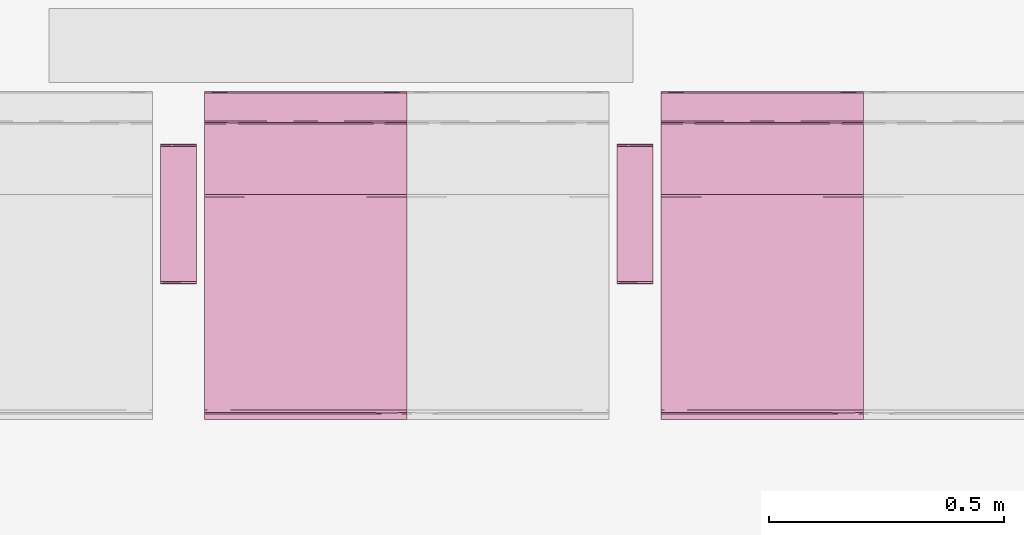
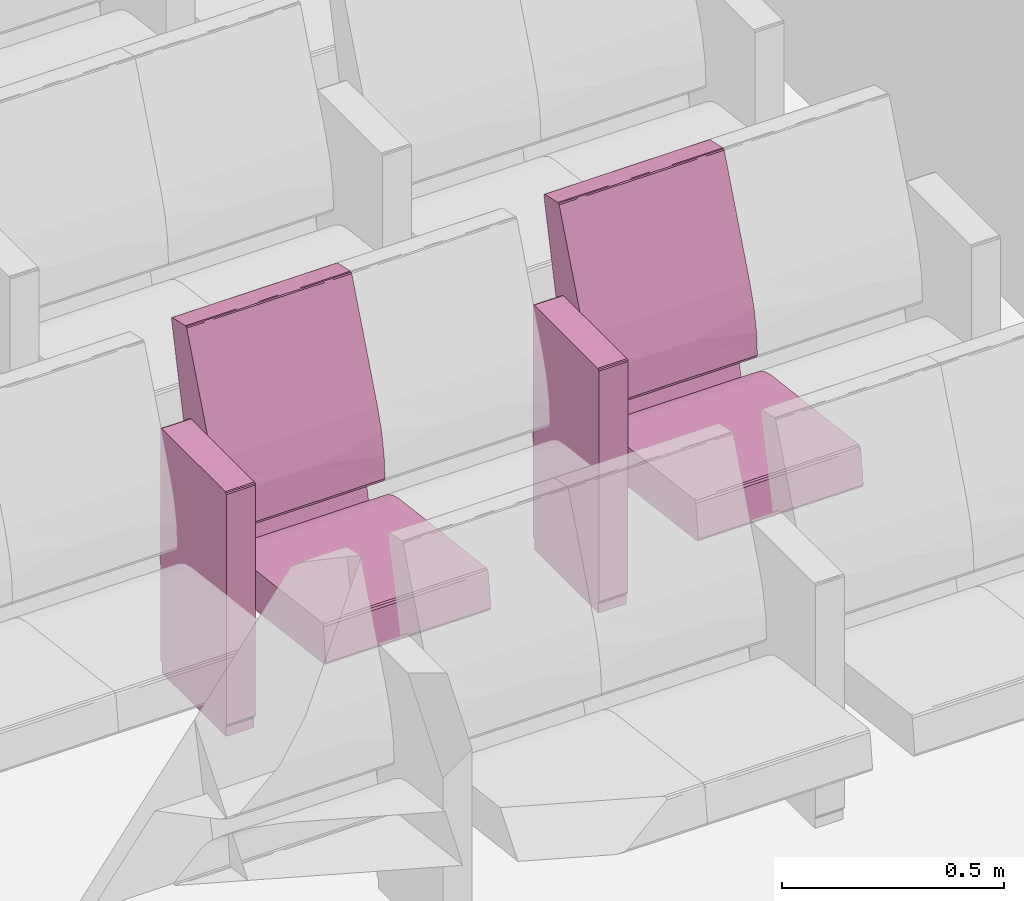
# One storey, part 130 of 155: 2 furnishings.
"""IFC2X3 building model written with IfcOpenShell, lengths in metres."""

from ifc_helpers import new_model, entity, si_unit, converted_unit, derived_unit, direction, frame, origin, place, context, subcontext, project, spatial, faceted_brep, source, transform, mapped, material, material_list, type_object, type_shapes, element, save


model = new_model("IFC2X3")

# Units and contexts
model_context = context("Model", 3, precision=1e-05, world=origin(), true_north=direction((6.12303176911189e-17, 1.0)))
body_context = subcontext(model_context, "Body", "Model", "MODEL_VIEW")
ifc_project = project(units=[si_unit("LENGTHUNIT", "METRE"), si_unit("AREAUNIT", "SQUARE_METRE"), si_unit("VOLUMEUNIT", "CUBIC_METRE"), converted_unit("PLANEANGLEUNIT", "DEGREE", entity("IfcRatioMeasure", 0.0174532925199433), si_unit("PLANEANGLEUNIT", "RADIAN"), dimensions=[0, 0, 0, 0, 0, 0, 0]), si_unit("MASSUNIT", "GRAM", prefix="KILO"), derived_unit("MASSDENSITYUNIT", [(si_unit("MASSUNIT", "GRAM", prefix="KILO"), 1), (si_unit("LENGTHUNIT", "METRE"), -3)]), si_unit("TIMEUNIT", "SECOND"), si_unit("FREQUENCYUNIT", "HERTZ"), si_unit("THERMODYNAMICTEMPERATUREUNIT", "DEGREE_CELSIUS"), derived_unit("THERMALTRANSMITTANCEUNIT", [(si_unit("MASSUNIT", "GRAM", prefix="KILO"), 1), (si_unit("THERMODYNAMICTEMPERATUREUNIT", "KELVIN"), -1), (si_unit("TIMEUNIT", "SECOND"), -3)]), derived_unit("VOLUMETRICFLOWRATEUNIT", [(si_unit("LENGTHUNIT", "METRE"), 3), (si_unit("TIMEUNIT", "SECOND"), -1)]), si_unit("ELECTRICCURRENTUNIT", "AMPERE"), si_unit("ELECTRICVOLTAGEUNIT", "VOLT"), si_unit("POWERUNIT", "WATT"), si_unit("FORCEUNIT", "NEWTON", prefix="KILO"), si_unit("ILLUMINANCEUNIT", "LUX"), si_unit("LUMINOUSFLUXUNIT", "LUMEN"), si_unit("LUMINOUSINTENSITYUNIT", "CANDELA"), derived_unit("USERDEFINED", [(si_unit("MASSUNIT", "GRAM", prefix="KILO"), -1), (si_unit("LENGTHUNIT", "METRE"), -2), (si_unit("TIMEUNIT", "SECOND"), 3), (si_unit("LUMINOUSFLUXUNIT", "LUMEN"), 1)]), derived_unit("LINEARVELOCITYUNIT", [(si_unit("LENGTHUNIT", "METRE"), 1), (si_unit("TIMEUNIT", "SECOND"), -1)]), si_unit("PRESSUREUNIT", "PASCAL"), derived_unit("USERDEFINED", [(si_unit("LENGTHUNIT", "METRE"), -2), (si_unit("MASSUNIT", "GRAM", prefix="KILO"), 1), (si_unit("TIMEUNIT", "SECOND"), -2)])], contexts=[model_context])

# Site, building, storey, space
site_placement = place(None, frame((26.9889013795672, -17.5624287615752, 0.0)))
site = spatial("IfcSite", under=ifc_project, at=site_placement, Name="Default", CompositionType="ELEMENT")
building_placement = place(site_placement, origin())
building = spatial("IfcBuilding", under=site, at=building_placement, Name="C. C. L. Monsenhor Antônio Sampaio", CompositionType="ELEMENT")
storey_placement = place(building_placement, frame((0.0, 0.0, 1.19999999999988)))
storey = spatial("IfcBuildingStorey", under=building, at=storey_placement, Name="Nível 1.2", CompositionType="ELEMENT", Elevation=1.19999999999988)
space_placement = place(storey_placement, origin())
space = spatial("IfcSpace", under=storey, at=space_placement, Name="94", CompositionType="ELEMENT", InteriorOrExteriorSpace="INTERNAL")

# Furnishings
ifc_material_1 = material(Name="V9 - V9 - Ecopelle_672_658")
ifc_material_2 = material(Name="V9 - V9 - RAL_9006_Grigio")
ifc_material_list_1 = material_list([ifc_material_1, ifc_material_2])
ifc_material_list_2 = material_list([ifc_material_1, ifc_material_2])
furniture_type = type_object("IfcFurnitureType", Name="Cadeira auditório", material=ifc_material_list_2)
shared_shape = source(origin(), body_context, "Body", "Brep", [
    faceted_brep([(0.405536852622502, 0.156348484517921, 0.339809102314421), (0.410560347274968, 0.131924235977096, 0.34246450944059), (0.405536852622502, 0.1075, 0.339809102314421), (0.405536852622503, 0.0537499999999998, 0.339809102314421), (0.410597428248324, 0.084060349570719, 0.342506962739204), (0.41079981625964, 0.0179166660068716, 0.342749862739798), (0.405536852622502, 0.215, 0.339809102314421), (0.410248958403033, 0.173608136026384, 0.342130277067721), (0.412515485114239, 0.185674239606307, 0.348529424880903), (0.412515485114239, 0.143333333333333, 0.348529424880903), (0.410560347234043, -0.131924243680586, 0.342464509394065), (0.405536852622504, -0.156348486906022, 0.33980910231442), (0.405536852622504, -0.1075, 0.33980910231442), (0.405536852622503, 0.0, 0.33980910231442), (0.41251548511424, 0.0, 0.348529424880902), (0.411170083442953, -0.0341365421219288, 0.343251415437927), (0.41059742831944, -0.0840603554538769, 0.342506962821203), (0.41251548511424, -0.143333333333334, 0.348529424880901), (0.412515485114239, 0.0358333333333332, 0.348529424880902), (0.412515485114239, 0.0716666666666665, 0.348529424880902), (0.405536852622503, -0.0537500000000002, 0.33980910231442), (0.412515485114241, -0.185674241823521, 0.348529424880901), (0.410799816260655, -0.215, 0.342749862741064), (0.410248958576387, -0.173608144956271, 0.342130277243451), (0.410799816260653, 0.215, 0.342749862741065), (0.412515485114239, 0.215, 0.348529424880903), (0.412515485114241, -0.215, 0.348529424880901), (0.41251548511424, -0.0716666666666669, 0.348529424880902), (0.405536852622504, -0.215, 0.33980910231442), (-0.0557900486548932, -0.215, 0.28268145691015), (-0.055790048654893, -0.168631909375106, 0.282681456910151), (-0.0557900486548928, -0.138065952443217, 0.282681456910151), (-0.0557900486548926, -0.107499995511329, 0.282681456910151), (-0.0557900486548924, -0.0806249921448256, 0.282681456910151), (-0.0557900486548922, -0.0537499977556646, 0.282681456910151), (-0.0557900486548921, -0.0268750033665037, 0.282681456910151), (-0.0557900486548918, 0.0, 0.28268145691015), (-0.0557900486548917, 0.0268749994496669, 0.282681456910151), (-0.0557900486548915, 0.0537499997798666, 0.282681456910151), (-0.0557900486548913, 0.0806250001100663, 0.282681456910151), (-0.0557900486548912, 0.107499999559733, 0.282681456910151), (-0.055790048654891, 0.134374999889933, 0.282681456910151), (-0.0557900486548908, 0.161250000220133, 0.282681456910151), (-0.0557900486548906, 0.1881249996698, 0.282681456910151), (-0.0557900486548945, 0.215, 0.28268145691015), (-0.0594787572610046, -0.0152829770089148, 0.283700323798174), (-0.0613666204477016, 0.0, 0.287029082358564), (-0.0594787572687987, 0.0179017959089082, 0.283700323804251), (-0.0613666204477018, 0.191815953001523, 0.287029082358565), (-0.0613666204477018, 0.215, 0.287029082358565), (-0.0594787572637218, 0.215, 0.283700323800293), (-0.0593340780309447, 0.0671874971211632, 0.283591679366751), (-0.0613666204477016, 0.030565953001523, 0.287029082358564), (-0.0594787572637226, -0.215, 0.283700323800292), (-0.0593337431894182, -0.184174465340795, 0.283591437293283), (-0.0613666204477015, -0.122263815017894, 0.287029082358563), (-0.0613666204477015, -0.0916978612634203, 0.287029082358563), (-0.0613666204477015, -0.0611319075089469, 0.287029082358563), (-0.0593023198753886, -0.0940625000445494, 0.283568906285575), (-0.059382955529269, 0.118123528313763, 0.28362747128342), (-0.0613666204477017, 0.122263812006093, 0.287029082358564), (-0.0597338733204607, 0.147039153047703, 0.283913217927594), (-0.0613666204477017, 0.168631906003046, 0.287029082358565), (-0.0592501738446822, 0.180223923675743, 0.283532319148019), (-0.0588783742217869, 0.0926899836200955, 0.283298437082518), (-0.0613666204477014, -0.215, 0.287029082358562), (-0.0613666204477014, -0.168631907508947, 0.287029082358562), (-0.0592576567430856, -0.123736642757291, 0.283537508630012), (-0.0594787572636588, -0.153348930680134, 0.283700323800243), (-0.0613666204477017, 0.0916978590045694, 0.287029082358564), (-0.0613666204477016, -0.0305659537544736, 0.287029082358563), (-0.059645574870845, -0.045848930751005, 0.283836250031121), (-0.0613666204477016, 0.0611319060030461, 0.287029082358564), (-0.069340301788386, -0.215, 0.351419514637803), (-0.0693403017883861, -0.143333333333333, 0.351419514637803), (-0.0693403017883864, -0.0716666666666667, 0.351419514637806), (-0.0693403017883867, 0.0, 0.351419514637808), (-0.069340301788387, 0.0716666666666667, 0.351419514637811), (-0.0693403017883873, 0.143333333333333, 0.351419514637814), (-0.0693403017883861, 0.215, 0.351419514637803), (-0.0597085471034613, 0.0, 0.37476954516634), (-0.0645543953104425, 0.112272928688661, 0.369803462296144), (-0.0653387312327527, 0.0126787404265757, 0.368680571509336), (-0.0681665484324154, -0.0888707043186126, 0.36292533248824), (-0.0655136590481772, -0.10440004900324, 0.368411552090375), (-0.0694879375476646, 0.0590582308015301, 0.356377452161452), (-0.0695056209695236, -0.125492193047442, 0.356093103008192), (-0.0597085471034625, -0.110316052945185, 0.374769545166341), (-0.0690003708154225, 0.132942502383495, 0.359900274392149), (-0.0672851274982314, 0.108066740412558, 0.365148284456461), (-0.0676206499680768, 0.215, 0.364371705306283), (-0.0686241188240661, 0.215, 0.356813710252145), (-0.0686241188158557, -0.214999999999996, 0.356813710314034), (-0.0686999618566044, 0.0358333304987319, 0.36116674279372), (-0.0694502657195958, -0.0358333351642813, 0.356863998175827), (-0.0676206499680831, -0.214999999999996, 0.364371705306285), (-0.0636645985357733, -0.214999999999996, 0.369570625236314), (-0.0597085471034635, -0.214999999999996, 0.374769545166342), (-0.0597085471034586, 0.215, 0.374769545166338), (-0.0636645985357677, 0.215, 0.36957062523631), (-0.0597085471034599, 0.110316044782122, 0.374769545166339), (-0.0324117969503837, 0.215, 0.390639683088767), (-0.0324117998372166, 0.0436847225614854, 0.39063968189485), (-0.0018793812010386, 0.215, 0.398686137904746), (-0.041847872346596, -0.0856576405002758, 0.386239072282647), (-0.0324117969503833, -0.215, 0.390639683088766), (-0.00187938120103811, -0.215, 0.398686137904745), (-0.00187938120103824, -0.102488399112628, 0.398686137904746), (-0.0219042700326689, -0.0570631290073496, 0.394412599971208), (-0.00187938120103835, 0.0, 0.398686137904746), (0.392202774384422, 0.215, 0.447486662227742), (0.392202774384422, -0.215, 0.447486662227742), (0.392202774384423, -0.156349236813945, 0.447486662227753), (0.392202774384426, -0.107499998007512, 0.447486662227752), (0.392202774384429, -0.0537500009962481, 0.44748666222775), (0.392202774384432, 0.0, 0.447486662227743), (0.392202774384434, 0.0537499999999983, 0.447486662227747), (0.392202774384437, 0.107499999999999, 0.447486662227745), (0.392202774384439, 0.156349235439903, 0.447486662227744), (0.398104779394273, -0.131924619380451, 0.445856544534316), (0.401125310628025, -0.0976984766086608, 0.440530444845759), (0.397860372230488, -0.0827732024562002, 0.446039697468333), (0.401125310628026, -0.215000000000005, 0.440530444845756), (0.401125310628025, -0.156349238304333, 0.440530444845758), (0.397373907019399, -0.173462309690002, 0.446363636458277), (0.398104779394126, -0.215000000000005, 0.445856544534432), (0.397860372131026, 0.0827731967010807, 0.446039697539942), (0.398104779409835, 0.131924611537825, 0.445856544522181), (0.398104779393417, -0.0237489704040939, 0.445856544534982), (0.398104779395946, 0.0268749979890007, 0.445856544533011), (0.401125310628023, 0.0488492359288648, 0.440530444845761), (0.401125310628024, -0.0488492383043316, 0.440530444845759), (0.398774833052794, 0.173462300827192, 0.445271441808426), (0.401125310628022, 0.097698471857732, 0.440530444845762), (0.401125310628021, 0.215, 0.440530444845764), (0.39810477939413, 0.215, 0.445856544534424), (0.401125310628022, 0.156349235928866, 0.440530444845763), (0.401125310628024, 0.0, 0.44053044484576)], [[[0, 1, 2]], [[3, 4, 5]], [[6, 7, 0]], [[7, 8, 9]], [[10, 11, 12]], [[3, 5, 13]], [[14, 15, 5]], [[16, 17, 10]], [[9, 1, 7]], [[18, 5, 4]], [[4, 9, 19, 18]], [[9, 4, 1]], [[2, 1, 4]], [[13, 15, 20]], [[21, 22, 23]], [[5, 18, 14]], [[24, 25, 8]], [[22, 21, 26]], [[24, 7, 6]], [[23, 11, 10]], [[20, 15, 16]], [[3, 2, 4]], [[14, 27, 15]], [[5, 15, 13]], [[27, 17, 16]], [[10, 12, 16]], [[21, 23, 17]], [[20, 16, 12]], [[15, 27, 16]], [[7, 1, 0]], [[28, 11, 23]], [[8, 7, 24]], [[23, 10, 17]], [[28, 23, 22]], [[28, 29, 30, 31, 32, 33, 34, 35, 36, 37, 38, 39, 40, 41, 42, 43, 44, 6, 0, 2, 3, 13, 20, 12, 11]], [[45, 46, 47]], [[48, 49, 50]], [[51, 47, 52]], [[29, 53, 54]], [[55, 56, 57, 58]], [[59, 60, 61]], [[61, 62, 63]], [[51, 64, 39]], [[65, 66, 54]], [[31, 67, 32]], [[45, 47, 38, 37, 36, 35]], [[68, 31, 30]], [[43, 50, 44]], [[63, 42, 61]], [[48, 50, 63]], [[64, 69, 59]], [[68, 54, 66]], [[63, 62, 48]], [[50, 43, 63]], [[67, 55, 58]], [[61, 42, 41]], [[45, 70, 46]], [[55, 68, 66]], [[71, 33, 58]], [[71, 57, 70]], [[41, 40, 59]], [[60, 62, 61]], [[71, 35, 34, 33]], [[35, 71, 45]], [[47, 46, 52]], [[45, 71, 70]], [[58, 57, 71]], [[32, 58, 33]], [[31, 68, 67]], [[54, 68, 30]], [[29, 54, 30]], [[54, 53, 65]], [[55, 67, 68]], [[32, 67, 58]], [[51, 52, 72, 69]], [[43, 42, 63]], [[41, 59, 61]], [[47, 51, 38]], [[40, 39, 64]], [[38, 51, 39]], [[69, 60, 59]], [[69, 64, 51]], [[40, 64, 59]], [[65, 73, 74, 75, 76, 77, 78, 79, 49, 48, 62, 60, 69, 72, 52, 46, 70, 57, 56, 55, 66]], [[80, 81, 82]], [[82, 83, 84]], [[78, 77, 76, 85]], [[86, 75, 74]], [[84, 80, 82]], [[80, 84, 87]], [[88, 89, 90]], [[91, 79, 78]], [[74, 73, 92]], [[85, 88, 91]], [[81, 89, 82]], [[93, 94, 83]], [[94, 86, 83]], [[85, 76, 94]], [[92, 86, 74]], [[85, 94, 93]], [[83, 92, 95]], [[75, 94, 76]], [[93, 83, 82]], [[95, 96, 84]], [[88, 85, 93]], [[96, 97, 87]], [[98, 99, 100]], [[78, 85, 91]], [[89, 88, 93]], [[90, 91, 88]], [[93, 82, 89]], [[81, 99, 89]], [[99, 90, 89]], [[100, 81, 80]], [[100, 99, 81]], [[83, 86, 92]], [[75, 86, 94]], [[95, 84, 83]], [[87, 84, 96]], [[101, 102, 103]], [[104, 80, 87, 97]], [[105, 106, 107]], [[107, 108, 105]], [[103, 102, 109]], [[104, 102, 80]], [[104, 108, 102]], [[98, 102, 101]], [[105, 104, 97]], [[105, 108, 104]], [[102, 98, 100, 80]], [[109, 108, 107]], [[109, 102, 108]], [[110, 103, 109, 107, 106, 111, 112, 113, 114, 115, 116, 117, 118]], [[119, 120, 121]], [[122, 123, 124]], [[111, 125, 124]], [[117, 116, 126]], [[124, 119, 112]], [[113, 112, 119]], [[127, 118, 117]], [[115, 114, 128, 129, 116]], [[129, 130, 126]], [[121, 131, 128]], [[127, 132, 118]], [[110, 118, 132]], [[127, 126, 133]], [[119, 124, 123]], [[134, 135, 132]], [[136, 132, 127]], [[120, 119, 123]], [[133, 136, 127]], [[137, 130, 129, 128, 131]], [[126, 127, 117]], [[130, 133, 126]], [[113, 119, 121]], [[129, 126, 116]], [[128, 114, 121]], [[114, 113, 121]], [[131, 121, 120]], [[111, 124, 112]], [[124, 125, 122]], [[134, 132, 136]], [[132, 135, 110]], [[19, 9, 8, 25, 134, 136, 133, 130, 137, 131, 120, 123, 122, 26, 21, 17, 27, 14, 18]], [[65, 53, 29, 28, 22, 26, 122, 125, 111, 106, 105, 97, 96, 95, 92, 73]], [[98, 101, 103, 110, 135, 134, 25, 24, 6, 44, 50, 49, 79, 91, 90, 99]]]),
    faceted_brep([(0.123144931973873, -0.283972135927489, 0.673627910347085), (0.12334838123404, -0.259944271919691, 0.6734355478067), (0.119812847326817, -0.27, 0.674900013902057), (0.124812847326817, -0.27, 0.669900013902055), (0.12334838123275, -0.232, 0.673435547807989), (0.119812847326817, -0.232, 0.674900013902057), (0.124812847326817, -0.308, 0.669900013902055), (0.119812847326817, -0.308, 0.674900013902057), (0.124812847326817, -0.249888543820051, 0.669900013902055), (0.124812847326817, -0.232, 0.669900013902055), (0.12334838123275, -0.308, 0.673435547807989), (0.124812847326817, -0.27, 0.035), (0.124812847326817, -0.232, 0.035), (0.124812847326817, -0.308, 0.0350000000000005), (0.123540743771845, -0.283972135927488, 0.0316679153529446), (0.12334838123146, -0.25994427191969, 0.0314644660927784), (0.119812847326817, -0.27, 0.0300000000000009), (0.12334838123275, -0.232, 0.0314644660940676), (0.119812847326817, -0.308, 0.0300000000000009), (0.119812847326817, -0.249888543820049, 0.030000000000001), (0.119812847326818, -0.232, 0.030000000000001), (0.123348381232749, -0.308, 0.0314644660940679), (-0.167179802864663, -0.308, 0.0300000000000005), (-0.167179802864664, -0.27, 0.0300000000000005), (-0.167179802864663, -0.232, 0.0300000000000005), (-0.17051188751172, -0.283972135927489, 0.0312721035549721), (-0.170715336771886, -0.25994427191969, 0.0314644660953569), (-0.172179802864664, -0.27, 0.0350000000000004), (-0.170715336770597, -0.232, 0.0314644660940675), (-0.172179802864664, -0.308, 0.0350000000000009), (-0.172179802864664, -0.24988854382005, 0.0350000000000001), (-0.172179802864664, -0.232, 0.0349999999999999), (-0.170715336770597, -0.308, 0.0314644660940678), (-0.172179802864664, -0.308, 0.669900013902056), (-0.172179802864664, -0.27, 0.669900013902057), (-0.172179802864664, -0.232, 0.669900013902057), (-0.170907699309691, -0.283972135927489, 0.673232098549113), (-0.170715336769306, -0.259944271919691, 0.673435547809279), (-0.167179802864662, -0.27, 0.674900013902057), (-0.170715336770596, -0.232, 0.67343554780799), (-0.167179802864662, -0.308, 0.674900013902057), (-0.167179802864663, -0.249888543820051, 0.674900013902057), (-0.167179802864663, -0.232, 0.674900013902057), (-0.170715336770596, -0.308, 0.67343554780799)], [[[0, 1, 2]], [[1, 0, 3]], [[1, 4, 5, 2]], [[6, 3, 0]], [[7, 0, 2]], [[4, 1, 3, 8, 9]], [[10, 0, 7]], [[0, 10, 6]], [[11, 12, 9, 8, 3, 6, 13]], [[14, 15, 11]], [[15, 14, 16]], [[15, 17, 12, 11]], [[18, 16, 14]], [[13, 14, 11]], [[17, 15, 16, 19, 20]], [[21, 14, 13]], [[14, 21, 18]], [[18, 22, 23, 24, 20, 19, 16]], [[25, 26, 23]], [[26, 25, 27]], [[26, 28, 24, 23]], [[29, 27, 25]], [[22, 25, 23]], [[28, 26, 27, 30, 31]], [[32, 25, 22]], [[25, 32, 29]], [[27, 29, 33, 34, 35, 31, 30]], [[36, 37, 34]], [[37, 36, 38]], [[37, 39, 35, 34]], [[40, 38, 36]], [[33, 36, 34]], [[39, 37, 38, 41, 42]], [[43, 36, 33]], [[36, 43, 40]], [[40, 7, 2, 5, 42, 41, 38]], [[35, 39, 42, 5, 4, 9, 12, 17, 20, 24, 28, 31]], [[29, 32, 22, 18, 21, 13, 6, 10, 7, 40, 43, 33]]]),
    faceted_brep([(-0.0695672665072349, 0.215, 0.476508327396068), (-0.074405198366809, 0.0524423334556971, 0.506888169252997), (-0.0655618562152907, 0.215, 0.415143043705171), (-0.0744051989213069, -0.0780075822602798, 0.506888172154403), (-0.0655618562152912, 0.0, 0.415143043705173), (-0.0655618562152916, -0.215, 0.415143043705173), (-0.0655618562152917, -0.1075, 0.415143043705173), (-0.0655618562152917, 0.1075, 0.415143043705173), (-0.0695672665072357, -0.215, 0.476508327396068), (-0.081111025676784, -0.215, 0.536911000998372), (-0.0811110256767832, 0.215, 0.536911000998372), (-0.100016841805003, 0.215, 0.595428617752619), (-0.100016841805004, 0.0, 0.595428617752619), (-0.100016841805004, -0.215, 0.595428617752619), (-0.0698317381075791, 0.0358333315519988, 0.406528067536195), (-0.0792851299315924, 0.0, 0.404772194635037), (-0.0792851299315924, 0.0716666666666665, 0.404772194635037), (-0.0792851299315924, -0.215, 0.404772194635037), (-0.0792851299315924, -0.143333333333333, 0.404772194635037), (-0.0698317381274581, -0.215, 0.406528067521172), (-0.0792851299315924, 0.143333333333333, 0.404772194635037), (-0.0792851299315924, 0.215, 0.404772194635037), (-0.0698317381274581, 0.215, 0.406528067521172), (-0.0694171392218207, 0.140338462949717, 0.406857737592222), (-0.0708115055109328, -0.0356393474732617, 0.405868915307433), (-0.0703502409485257, -0.107500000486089, 0.406159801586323), (-0.0792851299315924, -0.0716666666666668, 0.404772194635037), (-0.163837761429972, -0.215, 0.420611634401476), (-0.163837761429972, 0.215, 0.420611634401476), (-0.123612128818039, 0.215, 0.235917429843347), (-0.123612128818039, -0.215, 0.235917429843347), (-0.142059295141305, -0.215, 0.231899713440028), (-0.142059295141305, 0.215, 0.231899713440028), (-0.235388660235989, -0.215, 0.652619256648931), (-0.235388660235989, 0.215, 0.652619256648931), (-0.28428001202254, -0.215, 0.873004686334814), (-0.284280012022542, -0.191295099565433, 0.873004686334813), (-0.284280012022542, -0.161249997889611, 0.873004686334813), (-0.284280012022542, -0.134374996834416, 0.873004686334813), (-0.284280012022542, -0.107499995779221, 0.873004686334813), (-0.284280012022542, -0.0806249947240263, 0.873004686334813), (-0.284280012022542, -0.0537499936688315, 0.873004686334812), (-0.284280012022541, -0.0268749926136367, 0.873004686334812), (-0.28428001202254, 0.0, 0.873004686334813), (-0.284280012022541, 0.0268749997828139, 0.873004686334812), (-0.284280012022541, 0.0537500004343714, 0.873004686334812), (-0.284280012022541, 0.0806250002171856, 0.873004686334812), (-0.284280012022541, 0.1075, 0.873004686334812), (-0.284280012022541, 0.134374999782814, 0.873004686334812), (-0.28428001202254, 0.161249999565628, 0.873004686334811), (-0.28428001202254, 0.191295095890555, 0.873004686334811), (-0.28428001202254, 0.215, 0.873004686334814), (-0.283746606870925, 0.0872244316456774, 0.876674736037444), (-0.283504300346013, 0.0569644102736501, 0.877068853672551), (-0.283567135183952, -0.15546176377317, 0.876973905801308), (-0.283641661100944, -0.12093750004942, 0.87685511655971), (-0.283567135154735, 0.155461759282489, 0.876973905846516), (-0.28330409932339, 0.185293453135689, 0.877344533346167), (-0.283641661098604, 0.0179166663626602, 0.876855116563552), (-0.283641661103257, -0.0136463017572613, 0.876855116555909), (-0.280514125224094, -0.0358333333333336, 0.879190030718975), (-0.280514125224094, 0.0, 0.879190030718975), (-0.280514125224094, 0.0358333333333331, 0.879190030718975), (-0.280514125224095, -0.143333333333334, 0.879190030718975), (-0.280514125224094, -0.1075, 0.879190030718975), (-0.280514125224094, -0.071666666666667, 0.879190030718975), (-0.283746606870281, -0.0872244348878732, 0.876674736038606), (-0.280514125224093, 0.0716666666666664, 0.879190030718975), (-0.280514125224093, 0.1075, 0.879190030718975), (-0.283641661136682, 0.120937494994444, 0.876855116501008), (-0.280514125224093, 0.143333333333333, 0.879190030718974), (-0.283641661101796, 0.215, 0.876855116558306), (-0.283641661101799, -0.215, 0.876855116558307), (-0.283304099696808, -0.18529345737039, 0.877344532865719), (-0.280514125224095, -0.167590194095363, 0.879190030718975), (-0.280514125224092, 0.215, 0.879190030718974), (-0.280514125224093, 0.167590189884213, 0.879190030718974), (-0.280514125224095, -0.215, 0.879190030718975), (-0.283504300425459, -0.0569644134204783, 0.8770688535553), (-0.22111253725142, 0.215, 0.892176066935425), (-0.22111253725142, -0.215, 0.892176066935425), (-0.221112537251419, -0.191815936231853, 0.892176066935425), (-0.221112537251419, -0.161250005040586, 0.892176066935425), (-0.221112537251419, -0.134375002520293, 0.892176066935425), (-0.221112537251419, -0.1075, 0.892176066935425), (-0.221112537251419, -0.080624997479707, 0.892176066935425), (-0.221112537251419, -0.0537499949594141, 0.892176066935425), (-0.221112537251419, -0.0268750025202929, 0.892176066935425), (-0.221112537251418, 0.0, 0.892176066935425), (-0.221112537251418, 0.0268750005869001, 0.892176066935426), (-0.221112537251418, 0.05375000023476, 0.892176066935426), (-0.221112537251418, 0.0806249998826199, 0.892176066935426), (-0.221112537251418, 0.10749999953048, 0.892176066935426), (-0.221112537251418, 0.13437499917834, 0.892176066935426), (-0.221112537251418, 0.16124999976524, 0.892176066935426), (-0.221112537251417, 0.19181594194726, 0.892176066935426), (-0.215419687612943, 0.0, 0.889191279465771), (-0.215419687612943, 0.0358333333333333, 0.889191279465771), (-0.217722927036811, 0.0162353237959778, 0.891719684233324), (-0.217722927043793, -0.0134375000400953, 0.891719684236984), (-0.215419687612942, -0.191815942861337, 0.889191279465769), (-0.215419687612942, -0.168631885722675, 0.889191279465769), (-0.217722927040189, -0.182482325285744, 0.891719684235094), (-0.217722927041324, -0.215, 0.891719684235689), (-0.215419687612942, -0.215, 0.889191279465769), (-0.215419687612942, -0.1075, 0.88919127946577), (-0.215419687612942, -0.0716666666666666, 0.88919127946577), (-0.217722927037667, -0.0912646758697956, 0.891719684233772), (-0.217722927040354, -0.120937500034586, 0.89171968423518), (-0.215419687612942, -0.143333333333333, 0.88919127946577), (-0.215419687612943, 0.191815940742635, 0.889191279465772), (-0.215419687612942, 0.215, 0.889191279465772), (-0.217722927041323, 0.215, 0.89171968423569), (-0.217722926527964, 0.190103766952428, 0.891719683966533), (-0.217722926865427, 0.0912646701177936, 0.891719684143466), (-0.217816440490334, 0.0647800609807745, 0.891767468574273), (-0.215419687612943, 0.0716666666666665, 0.889191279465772), (-0.217816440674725, -0.0647800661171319, 0.891767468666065), (-0.2179983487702, -0.0390825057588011, 0.891853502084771), (-0.217558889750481, -0.155982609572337, 0.891629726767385), (-0.217722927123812, 0.120937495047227, 0.891719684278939), (-0.215419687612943, 0.16863188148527, 0.889191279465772), (-0.215419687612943, 0.143333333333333, 0.889191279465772), (-0.217558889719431, 0.15598260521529, 0.891629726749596), (-0.215419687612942, -0.0358333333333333, 0.889191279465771), (-0.215419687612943, 0.1075, 0.889191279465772), (-0.218257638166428, 0.0404491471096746, 0.891961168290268)], [[[0, 1, 2]], [[1, 3, 4]], [[3, 5, 6, 4]], [[1, 4, 7, 2]], [[5, 3, 8]], [[8, 3, 9]], [[0, 10, 1]], [[11, 12, 1]], [[3, 13, 9]], [[3, 12, 13]], [[11, 1, 10]], [[3, 1, 12]], [[14, 15, 16]], [[17, 18, 19]], [[20, 21, 22]], [[2, 23, 22]], [[14, 7, 4]], [[14, 24, 15]], [[6, 25, 24]], [[22, 23, 20]], [[14, 23, 7]], [[19, 6, 5]], [[4, 24, 14]], [[16, 23, 14]], [[16, 20, 23]], [[26, 25, 18]], [[25, 19, 18]], [[15, 24, 26]], [[23, 2, 7]], [[19, 25, 6]], [[26, 24, 25]], [[6, 24, 4]], [[15, 26, 18, 17, 27, 28, 21, 20, 16]], [[29, 28, 27, 30]], [[30, 31, 32, 29]], [[32, 31, 33, 34]], [[34, 33, 35, 36, 37, 38, 39, 40, 41, 42, 43, 44, 45, 46, 47, 48, 49, 50, 51]], [[52, 46, 53]], [[38, 54, 55]], [[56, 57, 49]], [[58, 59, 60, 61, 62]], [[63, 64, 55]], [[64, 65, 66]], [[52, 67, 68]], [[69, 70, 56]], [[49, 57, 50]], [[38, 55, 39]], [[71, 51, 50]], [[36, 35, 72]], [[59, 58, 44, 43, 42]], [[73, 74, 54]], [[55, 66, 39]], [[75, 57, 76]], [[77, 74, 73]], [[69, 52, 68]], [[37, 36, 73]], [[54, 74, 63]], [[56, 76, 57]], [[36, 72, 73]], [[75, 71, 57]], [[70, 76, 56]], [[52, 69, 47]], [[48, 47, 69]], [[42, 78, 59]], [[66, 55, 64]], [[50, 57, 71]], [[73, 54, 37]], [[77, 73, 72]], [[48, 69, 56]], [[56, 49, 48]], [[69, 68, 70]], [[53, 46, 45, 44]], [[58, 62, 53]], [[53, 44, 58]], [[38, 37, 54]], [[63, 55, 54]], [[78, 66, 65]], [[78, 40, 66]], [[67, 52, 53]], [[78, 42, 41, 40]], [[65, 60, 78]], [[59, 78, 60]], [[52, 47, 46]], [[40, 39, 66]], [[62, 67, 53]], [[79, 75, 76, 70, 68, 67, 62, 61, 60, 65, 64, 63, 74, 77, 80, 81, 82, 83, 84, 85, 86, 87, 88, 89, 90, 91, 92, 93, 94, 95]], [[96, 97, 98, 99]], [[100, 101, 102, 103, 104]], [[105, 106, 107, 108, 109]], [[110, 111, 112]], [[113, 112, 95]], [[114, 115, 116]], [[117, 118, 86]], [[82, 119, 83]], [[102, 82, 81, 80, 103]], [[112, 79, 95]], [[108, 107, 85, 84, 83]], [[88, 87, 99, 98, 89]], [[119, 101, 109]], [[93, 92, 120]], [[117, 85, 107]], [[113, 121, 110]], [[122, 121, 123]], [[113, 94, 123]], [[124, 99, 118]], [[122, 123, 120]], [[108, 119, 109]], [[113, 110, 112]], [[102, 101, 119]], [[119, 108, 83]], [[114, 125, 120]], [[123, 94, 93]], [[93, 120, 123]], [[114, 120, 92]], [[122, 120, 125]], [[117, 107, 106]], [[114, 92, 91]], [[116, 125, 114]], [[115, 91, 90]], [[85, 117, 86]], [[126, 89, 98]], [[117, 106, 124]], [[118, 99, 87]], [[124, 96, 99]], [[97, 116, 115]], [[97, 115, 126]], [[86, 118, 87]], [[124, 118, 117]], [[91, 115, 114]], [[115, 90, 126]], [[89, 126, 90]], [[97, 126, 98]], [[82, 102, 119]], [[94, 113, 95]], [[121, 113, 123]], [[11, 111, 110, 121, 122, 125, 116, 97, 96, 124, 106, 105, 109, 101, 100, 104, 13, 12]], [[27, 17, 19, 5, 8, 9, 13, 104, 103, 80, 77, 72, 35, 33, 31, 30]], [[51, 71, 75, 79, 112, 111, 11, 10, 0, 2, 22, 21, 28, 29, 32, 34]]]),
    faceted_brep([(0.120312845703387, -0.2335, 0.0), (0.120312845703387, -0.2335, 0.0260000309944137), (0.120312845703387, -0.249500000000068, 0.0260000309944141), (0.120312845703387, -0.27, 0.0260000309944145), (0.120312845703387, -0.3065, 0.0260000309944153), (0.120312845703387, -0.3065, 0.0), (-0.167687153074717, -0.3065, 0.0), (-0.167687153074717, -0.2335, 0.0), (-0.167687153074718, -0.27, 0.0260000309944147), (-0.167687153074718, -0.2335, 0.0260000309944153), (-0.167687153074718, -0.3065, 0.0260000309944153), (-0.166521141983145, -0.233500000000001, 0.0288228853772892), (-0.166521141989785, -0.257382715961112, 0.0288228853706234), (-0.163702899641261, -0.233500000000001, 0.0300000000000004), (-0.163702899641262, -0.3065, 0.0300000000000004), (-0.16652114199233, -0.279986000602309, 0.0288228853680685), (-0.166521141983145, -0.3065, 0.0288228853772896), (-0.163702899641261, -0.27, 0.0300000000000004), (0.116297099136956, -0.3065, 0.0300000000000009), (0.116297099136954, -0.269999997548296, 0.0300000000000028), (0.116297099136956, -0.2335, 0.0300000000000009), (0.119033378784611, -0.283124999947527, 0.0289323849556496), (0.1191357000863, -0.2335, 0.0288340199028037), (0.119135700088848, -0.259750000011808, 0.0288340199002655), (0.119135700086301, -0.3065, 0.0288340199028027)], [[[0, 1, 2, 3, 4, 5]], [[0, 5, 6, 7]], [[8, 9, 7, 6, 10]], [[11, 12, 13]], [[14, 15, 16]], [[15, 14, 17, 13, 12]], [[9, 8, 12, 11]], [[16, 15, 10]], [[8, 10, 15, 12]], [[14, 18, 19, 20, 13, 17]], [[21, 4, 3]], [[22, 20, 19, 23]], [[3, 2, 1, 22, 23]], [[24, 21, 18]], [[21, 3, 23]], [[18, 21, 19]], [[21, 24, 4]], [[21, 23, 19]], [[6, 5, 4, 24, 18, 14, 16, 10]], [[7, 9, 11, 13, 20, 22, 1, 0]]]),
])
type_shapes(furniture_type, [shared_shape])
furnishing_1_placement = place(space_placement, frame((-8.06594929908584, -15.3086263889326, 0.0), z_axis=(0.0, 0.0, 1.0), x_axis=(0.0, -1.0, 0.0)))
element("IfcFurnishingElement", 1, at=furnishing_1_placement, inside=space, type_object=furniture_type, material=ifc_material_list_1, Name="cadeira auditório pcd:Cadeira auditório", ObjectType="Cadeira auditório", context=body_context, shape_type="MappedRepresentation", body=[
    mapped(shared_shape, transform((0.0, 0.0, 0.0), scale=1.0)),
])
ifc_material_list_3 = material_list([ifc_material_1, ifc_material_2])
furnishing_2_placement = place(space_placement, frame((-7.09594929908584, -15.3086263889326, 0.0), z_axis=(0.0, 0.0, 1.0), x_axis=(0.0, -1.0, 0.0)))
element("IfcFurnishingElement", 2, at=furnishing_2_placement, inside=space, type_object=furniture_type, material=ifc_material_list_3, Name="cadeira auditório pcd:Cadeira auditório", ObjectType="Cadeira auditório", context=body_context, shape_type="MappedRepresentation", body=[
    mapped(shared_shape, transform((0.0, 0.0, 0.0), scale=1.0)),
])

save(model, "model.ifc")
